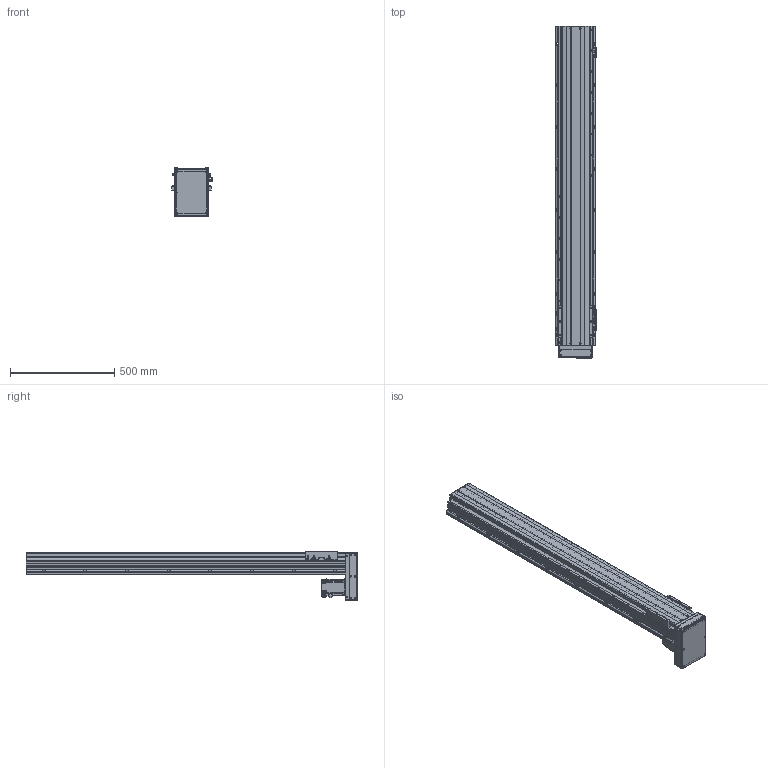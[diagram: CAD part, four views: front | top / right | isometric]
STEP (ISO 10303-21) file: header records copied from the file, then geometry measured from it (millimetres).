
FILE_DESCRIPTION(/* description */ ('MANUFACTURE','CAx-IF Rec.Pracs.---Representation and Presentation of Product Manufacturing Information (PMI)---4.0---2014-10-13'),/* implementation_level */ '2;1');
FILE_NAME(/* name */ '\\192.168.0.160\disk1\HAN SHIN Master\B-설계부문\C-표준\B-2024년\BC02-표준도면\+로봇 개선표준도면\표준 승인도 폴더 - 재작업\3D\HS Type\HS160\D-Type\HS160-D70-N-1300-R10.stp',/* time_stamp */ '2024-08-28T13:25:00+09:00',/* author */ ('user'),/* organization */ (''),/* preprocessor_version */ 'ST-DEVELOPER v18.1',/* originating_system */ 'Autodesk Inventor 2022',/* authorisation */ 'LIP');
FILE_SCHEMA (('AP242_MANAGED_MODEL_BASED_3D_ENGINEERING_MIM_LF { 1 0 10303 442 1 1 4 }'));
Products named in the file (30): HS160 D 70-N-0500-R10 - 간소화; HS160 LR BASE (400W-20Pi); 6004ZZ; 6004ZZ Outer ring; 6004ZZ Shield1; 6004ZZ Inner ring; 6004ZZ Ball; 6004ZZ Shield2; UPCOVER; HR180 FRONT BLOCK; HR180 FRONT BLOCK_1; REAR COVER; STOPPER104; HR120 SENSOR DOG; TABLE; LMKE2020 NUT; NUT HOLDER; hsr_ftht_A-M6F_grease_nipple_joint; NIPPLE CAP(신규); hg-kr73_; 750W MOTOR PLATE; 화살표; SENSOR BRK(EE-SX674A); EE_SX674A; HS160 D MOTOR PLATE; HG160DACRYLCOVER001; HG160DACRYLCOVER003; HG160 D BELT COVER; HG160ACRYLCOVER002; SIDE COVER
Assembly tree (57 placements, depth 3):
  HS160 D 70-N-0500-R10 - 간소화
    HS160 LR BASE (400W-20Pi)
    6004ZZ
      6004ZZ Outer ring
      6004ZZ Shield1
      6004ZZ Inner ring
      6004ZZ Ball  x13
      6004ZZ Shield2
    UPCOVER
    SIDE COVER  x2
    HR180 FRONT BLOCK
    HR180 FRONT BLOCK_1
    REAR COVER
    STOPPER104  x2
    HR120 SENSOR DOG
    SENSOR BRK(EE-SX674A)  x3
    EE_SX674A  x3
    TABLE
    LMKE2020 NUT
    NUT HOLDER
    hsr_ftht_A-M6F_grease_nipple_joint  x5
    NIPPLE CAP(신규)  x5
    화살표  x2
    hg-kr73_
    750W MOTOR PLATE
    HS160 D MOTOR PLATE
    HG160DACRYLCOVER001
    HG160ACRYLCOVER002  x2
    HG160DACRYLCOVER003
    HG160 D BELT COVER
Bounding box: 193.5 x 1592 x 232 mm (x, y, z)
Volume: 10117303.1 mm3; surface area: 2555843.5 mm2
Topology: 56 solids, 56 shells, 2605 faces, 7207 edges, 4686 vertices
Faces by surface type: plane 1194, cylinder 967, cone 331, sphere 57, torus 36, bspline 20
Full cylindrical faces by diameter (mm): 2.459 x40, 3 x32, 3.2 x2, 3.242 x48, 3.4 x22, 3.5 x6, 4.134 x28, 4.2 x8, 4.5 x36, 4.917 x57, 5 x30, 5.5 x25, 5.6 x5, 5.9 x4, 6 x19, 6.5 x16, 6.6 x18, 7 x4, 7.6 x4, 8.376 x16, 9 x6, 9.5 x29, 11 x14, 19 x1, 20 x2, 25 x1, 25.7 x4, 27 x2, 29.5 x1, 30 x1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
Entity records: 74439 total; most frequent: CARTESIAN_POINT 15264, DIRECTION 11892, ORIENTED_EDGE 10730, EDGE_CURVE 5365, AXIS2_PLACEMENT_3D 4457, VERTEX_POINT 3568, LINE 2978, VECTOR 2978
